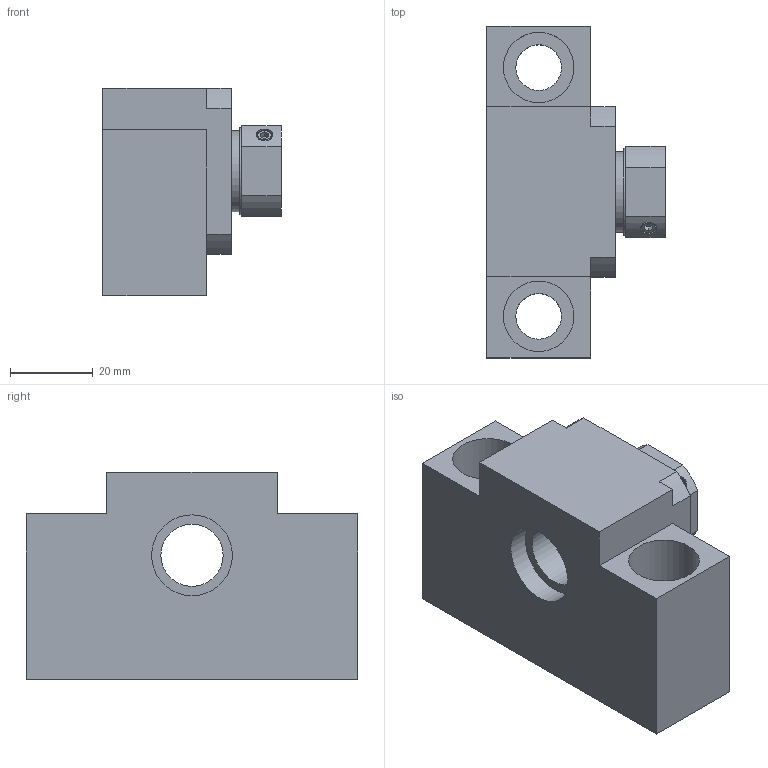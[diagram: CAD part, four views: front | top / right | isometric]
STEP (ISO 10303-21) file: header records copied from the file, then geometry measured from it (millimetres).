
FILE_DESCRIPTION((''),'2;1');
FILE_NAME('D:\製品 (図面)\カタログ用3D\ネジ関連\STEP形式\SUH\SUH15.stp','2010-06-02T14:50:51',('Tsuchiya'),(''),'Autodesk Inventor 10','Autodesk Inventor 10','');
FILE_SCHEMA(('AUTOMOTIVE_DESIGN { 1 0 10303 214 1 1 1 1 }'));
Length unit declared in the file: millimetre
Products named in the file (1): SUH15
Bounding box: 43 x 80 x 50 mm (x, y, z)
Volume: 83888.5 mm3; surface area: 21807.2 mm2
Topology: 1 solids, 1 shells, 100 faces, 227 edges, 150 vertices
Faces by surface type: plane 63, cylinder 18, bspline 14, torus 4, cone 1
Full cylindrical faces by diameter (mm): 4 x1, 7 x4, 15 x1, 19.5 x2, 21 x1, 27 x1
Entity records: 2875 total; most frequent: CARTESIAN_POINT 669, DIRECTION 432, ORIENTED_EDGE 408, EDGE_CURVE 204, VERTEX_POINT 150, EDGE_LOOP 150, VECTOR 146, LINE 146
